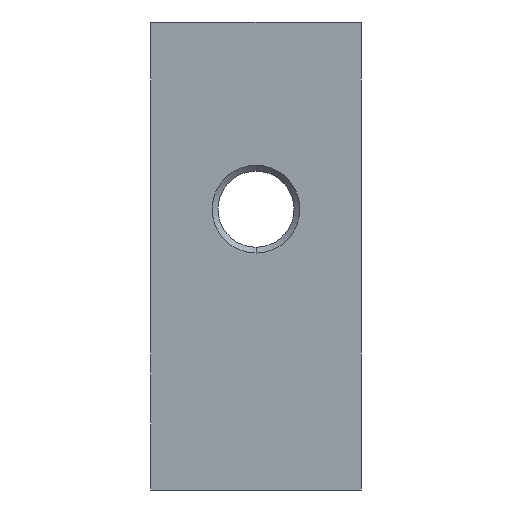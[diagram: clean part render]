
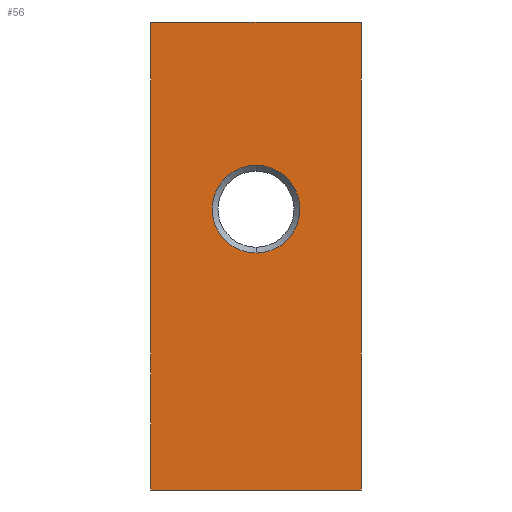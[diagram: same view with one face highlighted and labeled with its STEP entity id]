
A CAD part, front view. The second image highlights one B-rep face of the part: STEP entity #56.
In plain terms, the highlighted planar face has unit normal (0, -1, 0).
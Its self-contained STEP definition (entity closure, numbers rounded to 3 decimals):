
#8 = VECTOR ( 'NONE', #407, 1000. ) ;
#45 = AXIS2_PLACEMENT_3D ( 'NONE', #734, #348, #802 ) ;
#55 = CARTESIAN_POINT ( 'NONE',  ( 9., 0., -20. ) ) ;
#56 = ADVANCED_FACE ( 'NONE', ( #118, #685 ), #596, .F. ) ;
#75 = EDGE_CURVE ( 'NONE', #781, #719, #197, .T. ) ;
#78 = CARTESIAN_POINT ( 'NONE',  ( 0., 0., 0. ) ) ;
#80 = CARTESIAN_POINT ( 'NONE',  ( 0., 0., 7.75 ) ) ;
#99 = VECTOR ( 'NONE', #491, 1000. ) ;
#118 = FACE_BOUND ( 'NONE', #457, .T. ) ;
#120 = LINE ( 'NONE', #55, #99 ) ;
#141 = EDGE_CURVE ( 'NONE', #598, #608, #487, .T. ) ;
#142 = CARTESIAN_POINT ( 'NONE',  ( -9., 0., -20. ) ) ;
#154 = CARTESIAN_POINT ( 'NONE',  ( -9., 0., 20. ) ) ;
#197 = LINE ( 'NONE', #732, #8 ) ;
#204 = EDGE_CURVE ( 'NONE', #692, #773, #778, .T. ) ;
#233 = EDGE_CURVE ( 'NONE', #773, #781, #120, .T. ) ;
#238 = LINE ( 'NONE', #142, #724 ) ;
#247 = AXIS2_PLACEMENT_3D ( 'NONE', #78, #663, #282 ) ;
#277 = DIRECTION ( 'NONE',  ( 0., 0., 1. ) ) ;
#282 = DIRECTION ( 'NONE',  ( 0., 0., 1. ) ) ;
#293 = ORIENTED_EDGE ( 'NONE', *, *, #75, .F. ) ;
#317 = CIRCLE ( 'NONE', #45, 3.75 ) ;
#325 = CARTESIAN_POINT ( 'NONE',  ( -9., 0., 20. ) ) ;
#329 = ORIENTED_EDGE ( 'NONE', *, *, #204, .F. ) ;
#338 = CARTESIAN_POINT ( 'NONE',  ( 0., 0., 0.25 ) ) ;
#340 = CARTESIAN_POINT ( 'NONE',  ( 9., 0., -20. ) ) ;
#348 = DIRECTION ( 'NONE',  ( 0., 1., 0. ) ) ;
#389 = CARTESIAN_POINT ( 'NONE',  ( -9., 0., -20. ) ) ;
#407 = DIRECTION ( 'NONE',  ( -1., 0., 0. ) ) ;
#414 = EDGE_CURVE ( 'NONE', #608, #598, #317, .T. ) ;
#447 = DIRECTION ( 'NONE',  ( 0., 0., 1. ) ) ;
#457 = EDGE_LOOP ( 'NONE', ( #553, #775 ) ) ;
#458 = AXIS2_PLACEMENT_3D ( 'NONE', #634, #723, #277 ) ;
#487 = CIRCLE ( 'NONE', #458, 3.75 ) ;
#491 = DIRECTION ( 'NONE',  ( 0., 0., -1. ) ) ;
#510 = EDGE_LOOP ( 'NONE', ( #722, #329, #687, #293 ) ) ;
#513 = DIRECTION ( 'NONE',  ( 1., 0., 0. ) ) ;
#542 = EDGE_CURVE ( 'NONE', #719, #692, #238, .T. ) ;
#553 = ORIENTED_EDGE ( 'NONE', *, *, #141, .T. ) ;
#596 = PLANE ( 'NONE',  #247 ) ;
#598 = VERTEX_POINT ( 'NONE', #338 ) ;
#601 = VECTOR ( 'NONE', #513, 1000. ) ;
#608 = VERTEX_POINT ( 'NONE', #80 ) ;
#634 = CARTESIAN_POINT ( 'NONE',  ( 0., 0., 4. ) ) ;
#663 = DIRECTION ( 'NONE',  ( 0., 1., 0. ) ) ;
#685 = FACE_OUTER_BOUND ( 'NONE', #510, .T. ) ;
#687 = ORIENTED_EDGE ( 'NONE', *, *, #542, .F. ) ;
#692 = VERTEX_POINT ( 'NONE', #154 ) ;
#719 = VERTEX_POINT ( 'NONE', #389 ) ;
#721 = CARTESIAN_POINT ( 'NONE',  ( 9., 0., 20. ) ) ;
#722 = ORIENTED_EDGE ( 'NONE', *, *, #233, .F. ) ;
#723 = DIRECTION ( 'NONE',  ( 0., 1., 0. ) ) ;
#724 = VECTOR ( 'NONE', #447, 1000. ) ;
#732 = CARTESIAN_POINT ( 'NONE',  ( -9., 0., -20. ) ) ;
#734 = CARTESIAN_POINT ( 'NONE',  ( 0., 0., 4. ) ) ;
#773 = VERTEX_POINT ( 'NONE', #721 ) ;
#775 = ORIENTED_EDGE ( 'NONE', *, *, #414, .T. ) ;
#778 = LINE ( 'NONE', #325, #601 ) ;
#781 = VERTEX_POINT ( 'NONE', #340 ) ;
#802 = DIRECTION ( 'NONE',  ( 0., 0., 1. ) ) ;
